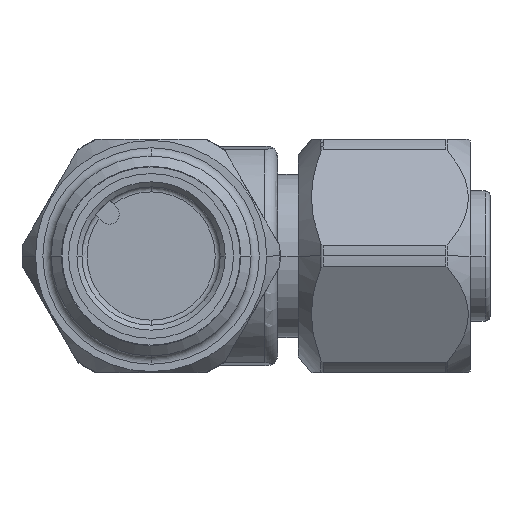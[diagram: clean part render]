
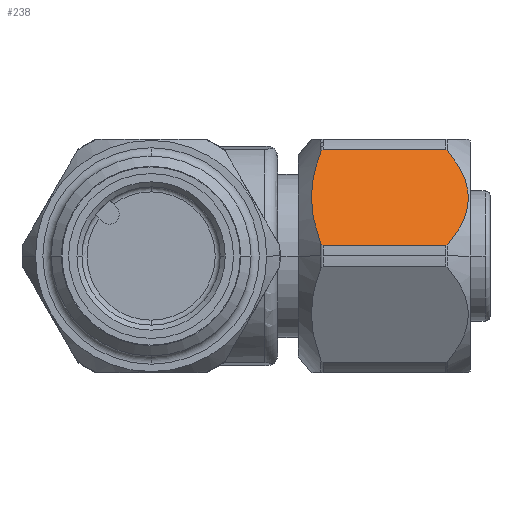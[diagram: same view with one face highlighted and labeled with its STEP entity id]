
A CAD part, left-side view. The second image highlights one B-rep face of the part: STEP entity #238.
In plain terms, the highlighted planar face has unit normal (-0.866, 0, 0.5).
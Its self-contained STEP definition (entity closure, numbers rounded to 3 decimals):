
#238 = ADVANCED_FACE( '', ( #520 ), #521, .F. );
#520 = FACE_OUTER_BOUND( '', #947, .T. );
#521 = PLANE( '', #948 );
#947 = EDGE_LOOP( '', ( #2091, #2092, #2093, #2094, #2095, #2096, #2097, #2098 ) );
#948 = AXIS2_PLACEMENT_3D( '', #2099, #2100, #2101 );
#2091 = ORIENTED_EDGE( '', *, *, #2765, .F. );
#2092 = ORIENTED_EDGE( '', *, *, #2766, .F. );
#2093 = ORIENTED_EDGE( '', *, *, #2767, .F. );
#2094 = ORIENTED_EDGE( '', *, *, #2768, .F. );
#2095 = ORIENTED_EDGE( '', *, *, #2769, .F. );
#2096 = ORIENTED_EDGE( '', *, *, #2770, .F. );
#2097 = ORIENTED_EDGE( '', *, *, #2771, .F. );
#2098 = ORIENTED_EDGE( '', *, *, #2772, .F. );
#2099 = CARTESIAN_POINT( '', ( 135.417, -19.15, 0. ) );
#2100 = DIRECTION( '', ( 0.866, 0., -0.5 ) );
#2101 = DIRECTION( '', ( -0.5, 0., -0.866 ) );
#2765 = EDGE_CURVE( '', #3411, #3412, #3413, .T. );
#2766 = EDGE_CURVE( '', #3414, #3411, #3415, .T. );
#2767 = EDGE_CURVE( '', #3416, #3414, #3417, .T. );
#2768 = EDGE_CURVE( '', #3418, #3416, #3419, .T. );
#2769 = EDGE_CURVE( '', #3420, #3418, #3421, .T. );
#2770 = EDGE_CURVE( '', #3422, #3420, #3423, .T. );
#2771 = EDGE_CURVE( '', #3424, #3422, #3425, .T. );
#2772 = EDGE_CURVE( '', #3412, #3424, #3426, .T. );
#3411 = VERTEX_POINT( '', #4737 );
#3412 = VERTEX_POINT( '', #4738 );
#3413 = ( B_SPLINE_CURVE( 2, ( #4740, #4741, #4742 ), .UNSPECIFIED., .F., .F. )B_SPLINE_CURVE_WITH_KNOTS( ( 3, 3 ), ( 0., 6.991 ), .UNSPECIFIED. )RATIONAL_B_SPLINE_CURVE( ( 1., 1.103, 1. ) )BOUNDED_CURVE(  )REPRESENTATION_ITEM( '' )GEOMETRIC_REPRESENTATION_ITEM(  )CURVE(  ) );
#3414 = VERTEX_POINT( '', #4749 );
#3415 = B_SPLINE_CURVE_WITH_KNOTS( '', 3, ( #4750, #4751, #4752, #4753, #4754, #4755, #4756, #4757 ), .UNSPECIFIED., .F., .F., ( 4, 2, 2, 4 ), ( 0., 0.025, 0.054, 0.115 ), .UNSPECIFIED. );
#3416 = VERTEX_POINT( '', #4758 );
#3417 = LINE( '', #4759, #4760 );
#3418 = VERTEX_POINT( '', #4761 );
#3419 = B_SPLINE_CURVE_WITH_KNOTS( '', 3, ( #4762, #4763, #4764, #4765, #4766, #4767, #4768, #4769, #4770, #4771 ), .UNSPECIFIED., .F., .F., ( 4, 2, 2, 2, 4 ), ( -0.229, -0.143, -0.054, -0.025, 0. ), .UNSPECIFIED. );
#3420 = VERTEX_POINT( '', #4772 );
#3421 = ( B_SPLINE_CURVE( 2, ( #4774, #4775, #4776 ), .UNSPECIFIED., .F., .F. )B_SPLINE_CURVE_WITH_KNOTS( ( 3, 3 ), ( 0., 6.414 ), .UNSPECIFIED. )RATIONAL_B_SPLINE_CURVE( ( 1., 1.097, 1. ) )BOUNDED_CURVE(  )REPRESENTATION_ITEM( '' )GEOMETRIC_REPRESENTATION_ITEM(  )CURVE(  ) );
#3422 = VERTEX_POINT( '', #4783 );
#3423 = B_SPLINE_CURVE_WITH_KNOTS( '', 3, ( #4784, #4785, #4786, #4787, #4788, #4789, #4790, #4791, #4792, #4793 ), .UNSPECIFIED., .F., .F., ( 4, 2, 2, 2, 4 ), ( 0., 0.025, 0.054, 0.143, 0.229 ), .UNSPECIFIED. );
#3424 = VERTEX_POINT( '', #4794 );
#3425 = LINE( '', #4795, #4796 );
#3426 = B_SPLINE_CURVE_WITH_KNOTS( '', 3, ( #4797, #4798, #4799, #4800, #4801, #4802, #4803, #4804 ), .UNSPECIFIED., .F., .F., ( 4, 2, 2, 4 ), ( -0.115, -0.054, -0.025, 0. ), .UNSPECIFIED. );
#4737 = CARTESIAN_POINT( '', ( 139.069, -17.797, 6.326 ) );
#4738 = CARTESIAN_POINT( '', ( 135.806, -17.797, 0.674 ) );
#4740 = CARTESIAN_POINT( '', ( 139.069, -17.797, 6.326 ) );
#4741 = CARTESIAN_POINT( '', ( 137.438, -20.185, 3.5 ) );
#4742 = CARTESIAN_POINT( '', ( 135.806, -17.797, 0.674 ) );
#4749 = CARTESIAN_POINT( '', ( 139.101, -17.697, 6.38 ) );
#4750 = CARTESIAN_POINT( '', ( 139.101, -17.697, 6.38 ) );
#4751 = CARTESIAN_POINT( '', ( 139.101, -17.705, 6.38 ) );
#4752 = CARTESIAN_POINT( '', ( 139.1, -17.715, 6.379 ) );
#4753 = CARTESIAN_POINT( '', ( 139.097, -17.733, 6.374 ) );
#4754 = CARTESIAN_POINT( '', ( 139.095, -17.743, 6.37 ) );
#4755 = CARTESIAN_POINT( '', ( 139.086, -17.768, 6.356 ) );
#4756 = CARTESIAN_POINT( '', ( 139.078, -17.784, 6.341 ) );
#4757 = CARTESIAN_POINT( '', ( 139.069, -17.797, 6.326 ) );
#4758 = CARTESIAN_POINT( '', ( 139.101, -10.343, 6.38 ) );
#4759 = CARTESIAN_POINT( '', ( 139.101, -14.02, 6.38 ) );
#4760 = VECTOR( '', #5972, 1. );
#4761 = CARTESIAN_POINT( '', ( 139.016, -10.19, 6.233 ) );
#4762 = CARTESIAN_POINT( '', ( 139.016, -10.19, 6.233 ) );
#4763 = CARTESIAN_POINT( '', ( 139.031, -10.2, 6.259 ) );
#4764 = CARTESIAN_POINT( '', ( 139.045, -10.213, 6.284 ) );
#4765 = CARTESIAN_POINT( '', ( 139.07, -10.242, 6.327 ) );
#4766 = CARTESIAN_POINT( '', ( 139.084, -10.264, 6.351 ) );
#4767 = CARTESIAN_POINT( '', ( 139.095, -10.297, 6.37 ) );
#4768 = CARTESIAN_POINT( '', ( 139.097, -10.307, 6.374 ) );
#4769 = CARTESIAN_POINT( '', ( 139.1, -10.324, 6.379 ) );
#4770 = CARTESIAN_POINT( '', ( 139.101, -10.334, 6.38 ) );
#4771 = CARTESIAN_POINT( '', ( 139.101, -10.343, 6.38 ) );
#4772 = CARTESIAN_POINT( '', ( 135.86, -10.19, 0.767 ) );
#4774 = CARTESIAN_POINT( '', ( 135.86, -10.19, 0.767 ) );
#4775 = CARTESIAN_POINT( '', ( 137.438, -9.101, 3.5 ) );
#4776 = CARTESIAN_POINT( '', ( 139.016, -10.19, 6.233 ) );
#4783 = CARTESIAN_POINT( '', ( 135.775, -10.343, 0.62 ) );
#4784 = CARTESIAN_POINT( '', ( 135.775, -10.343, 0.62 ) );
#4785 = CARTESIAN_POINT( '', ( 135.775, -10.334, 0.62 ) );
#4786 = CARTESIAN_POINT( '', ( 135.776, -10.324, 0.621 ) );
#4787 = CARTESIAN_POINT( '', ( 135.778, -10.307, 0.626 ) );
#4788 = CARTESIAN_POINT( '', ( 135.781, -10.297, 0.63 ) );
#4789 = CARTESIAN_POINT( '', ( 135.792, -10.264, 0.649 ) );
#4790 = CARTESIAN_POINT( '', ( 135.806, -10.242, 0.673 ) );
#4791 = CARTESIAN_POINT( '', ( 135.831, -10.213, 0.716 ) );
#4792 = CARTESIAN_POINT( '', ( 135.845, -10.2, 0.741 ) );
#4793 = CARTESIAN_POINT( '', ( 135.86, -10.19, 0.767 ) );
#4794 = CARTESIAN_POINT( '', ( 135.775, -17.697, 0.62 ) );
#4795 = CARTESIAN_POINT( '', ( 135.775, -14.02, 0.62 ) );
#4796 = VECTOR( '', #5973, 1. );
#4797 = CARTESIAN_POINT( '', ( 135.806, -17.797, 0.674 ) );
#4798 = CARTESIAN_POINT( '', ( 135.797, -17.784, 0.659 ) );
#4799 = CARTESIAN_POINT( '', ( 135.789, -17.768, 0.644 ) );
#4800 = CARTESIAN_POINT( '', ( 135.781, -17.743, 0.63 ) );
#4801 = CARTESIAN_POINT( '', ( 135.778, -17.733, 0.626 ) );
#4802 = CARTESIAN_POINT( '', ( 135.776, -17.715, 0.621 ) );
#4803 = CARTESIAN_POINT( '', ( 135.775, -17.705, 0.62 ) );
#4804 = CARTESIAN_POINT( '', ( 135.775, -17.697, 0.62 ) );
#5972 = DIRECTION( '', ( 0., -1., 0. ) );
#5973 = DIRECTION( '', ( 0., 1., 0. ) );
